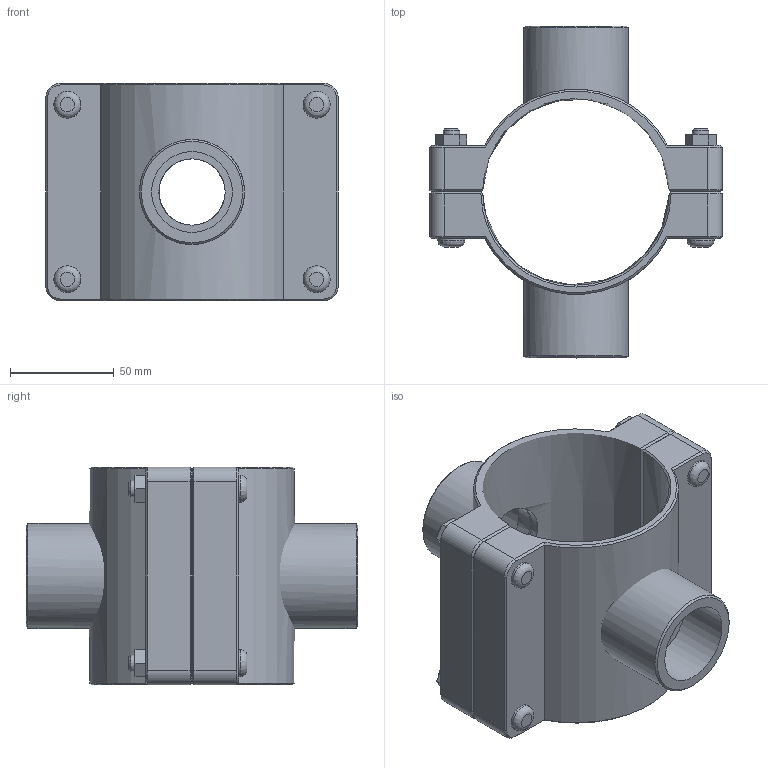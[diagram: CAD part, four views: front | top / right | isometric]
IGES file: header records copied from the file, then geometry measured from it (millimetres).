
Global section: file name: 161760090013_161860090013.ipt; native system: Autodesk Inventor 2015; preprocessor: unknown; author: KIM; date: 20170618.093729; units: millimetre
Bounding box: 141 x 160 x 105 mm (x, y, z)
Volume: 412312.5 mm3; surface area: 110245.4 mm2
Topology: 3 solids, 3 shells, 151 faces, 350 edges, 221 vertices
Faces by surface type: plane 84, cone 26, cylinder 24, revolution 17
Full cylindrical faces by diameter (mm): 8 x4, 13 x8, 50.638 x2
